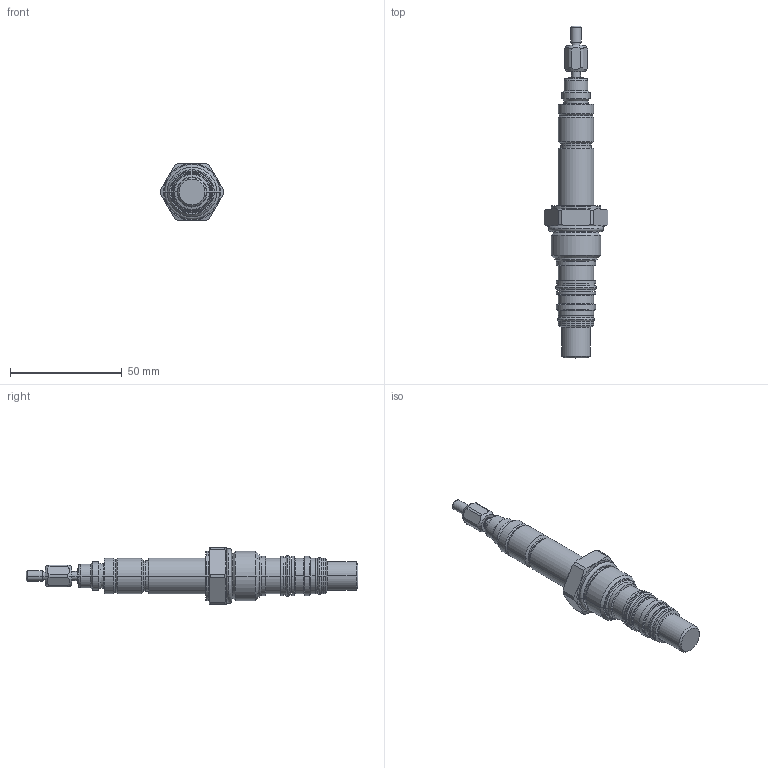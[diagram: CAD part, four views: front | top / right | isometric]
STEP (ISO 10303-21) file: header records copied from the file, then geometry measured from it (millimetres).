
FILE_DESCRIPTION((''),'2;1');
FILE_NAME('SXCL-3XJ_SW0001','2009-08-05T',('JCS'),(''),'PRO/ENGINEER BY PARAMETRIC TECHNOLOGY CORPORATION, 2008510','PRO/ENGINEER BY PARAMETRIC TECHNOLOGY CORPORATION, 2008510','');
FILE_SCHEMA(('CONFIG_CONTROL_DESIGN'));
Length unit declared in the file: inch
Products named in the file (1): SXCL-3XJ_SW0001
Bounding box: 28.57 x 148.49 x 25.4 mm (x, y, z)
Volume: 29726.7 mm3; surface area: 10449.6 mm2
Topology: 4 solids, 4 shells, 240 faces, 538 edges, 324 vertices
Faces by surface type: cylinder 80, cone 72, torus 50, plane 38
Entity records: 6891 total; most frequent: DIRECTION 1326, CARTESIAN_POINT 1285, ORIENTED_EDGE 1076, AXIS2_PLACEMENT_3D 584, EDGE_CURVE 538, CIRCLE 344, VERTEX_POINT 324, EDGE_LOOP 264
